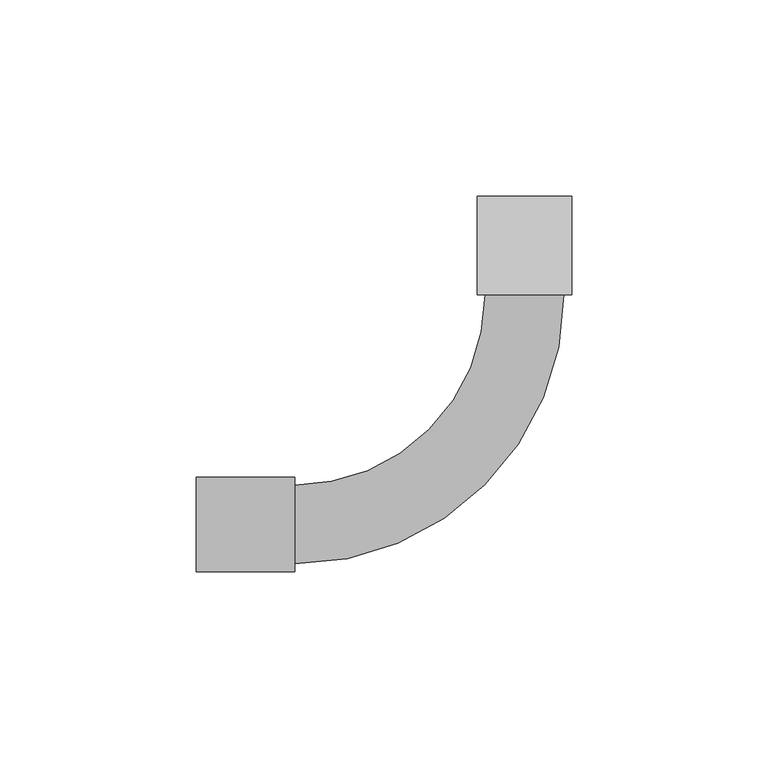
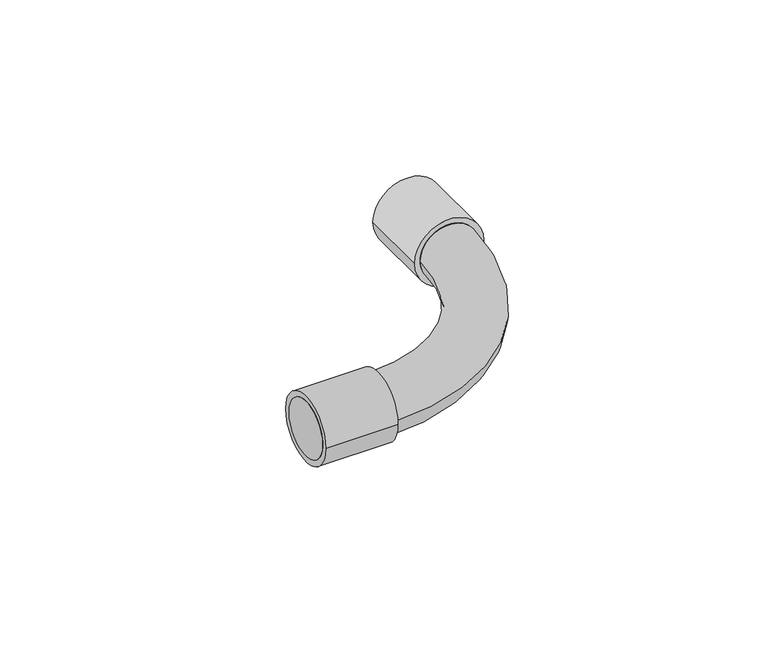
"""IFC4 building model written with IfcOpenShell, lengths in millimetres: cable carrier fitting geometry, Поворот на 90 труба-труба CRSG : Поворот на 90 труба-труба CRSG."""

from ifc_helpers import new_model, si_unit, point, frame, origin, origin_2d, place, context, project, spatial, circle_curve, ellipse_curve, trimmed, segment, composite_curve, outline, extrude, source, transform, mapped, element, save
from ifc_brep_helpers import plane_surface, cylinder_surface, revolved_surface, advanced_brep


def cable_carrier_fitting_3a765418(model_context):
    return source(origin(), model_context, "Body", "SolidModel", [
        advanced_brep(
        [(-83.4898, -9.9949, 0.0), (-83.4898, 9.9949, 0.0), (-58.4962, -9.9949, 0.0), (-58.4962, 9.9949, 0.0), (-9.9949, 58.4962, 0.0), (9.9949, 58.4962, 0.0), (9.9949, 83.4898, 0.0), (-9.9949, 83.4898, 0.0)],
        [
            (0, 1, circle_curve(frame((-83.4898, 0.0, 0.0), z_axis=(-1.0, 0.0, 0.0), x_axis=(0.0, 1.0, 0.0)), 9.9949)),
            (1, 0, circle_curve(frame((-83.4898, 0.0, 0.0), z_axis=(-1.0, 0.0, 0.0), x_axis=(0.0, 1.0, 0.0)), 9.9949)),
            (0, 2),
            (2, 3, circle_curve(frame((-58.4962, 0.0, 0.0), z_axis=(-1.0, 0.0, 0.0), x_axis=(0.0, 1.0, 0.0)), 9.9949)),
            (3, 1),
            (3, 2, circle_curve(frame((-58.4962, 0.0, 0.0), z_axis=(-1.0, 0.0, 0.0), x_axis=(0.0, 1.0, 0.0)), 9.9949)),
            (4, 3, circle_curve(frame((-58.4962, 58.4962, 0.0), z_axis=(0.0, 0.0, -1.0), x_axis=(0.0, -1.0, 0.0)), 48.5013)),
            (2, 5, circle_curve(frame((-58.4962, 58.4962, 0.0), z_axis=(0.0, 0.0, 1.0), x_axis=(0.0, -1.0, 0.0)), 68.4911)),
            (5, 4, circle_curve(frame((0.0, 58.4962, 0.0), z_axis=(0.0, -1.0, 0.0), x_axis=(-1.0, 0.0, 0.0)), 9.9949)),
            (4, 5, circle_curve(frame((0.0, 58.4962, 0.0), z_axis=(0.0, -1.0, 0.0), x_axis=(-1.0, 0.0, 0.0)), 9.9949)),
            (6, 7, circle_curve(frame((0.0, 83.4898, 0.0), z_axis=(0.0, 1.0, 0.0), x_axis=(-1.0, 0.0, 0.0)), 9.9949)),
            (7, 6, circle_curve(frame((0.0, 83.4898, 0.0), z_axis=(0.0, 1.0, 0.0), x_axis=(-1.0, 0.0, 0.0)), 9.9949)),
            (5, 6),
            (7, 4),
        ],
        [
            plane_surface(frame((-83.4898, 0.0, 0.0), z_axis=(-1.0, 0.0, 0.0), x_axis=(0.0, 0.0, 1.0))),
            cylinder_surface(frame((-83.4898, 0.0, 0.0), z_axis=(-1.0, 0.0, 0.0), x_axis=(0.0, 1.0, 0.0)), 9.9949),
            revolved_surface(trimmed(ellipse_curve(frame((-58.4962, 0.0, 0.0), z_axis=(-1.0, 0.0, 0.0), x_axis=(0.0, 1.0, 0.0)), 9.9949, 9.9949), [point((-58.4962, -9.9949, 0.0))], [point((-58.4962, 9.9949, 0.0))], True, "CARTESIAN"), (-58.4962, 58.4962, 0.0), (0.0, 0.0, 1.0)),
            revolved_surface(trimmed(ellipse_curve(frame((-58.4962, 0.0, 0.0), z_axis=(-1.0, 0.0, 0.0), x_axis=(0.0, 1.0, 0.0)), 9.9949, 9.9949), [point((-58.4962, 9.9949, 0.0))], [point((-58.4962, -9.9949, 0.0))], True, "CARTESIAN"), (-58.4962, 58.4962, 0.0), (0.0, 0.0, 1.0)),
            plane_surface(frame((0.0, 83.4898, 0.0), z_axis=(0.0, 1.0, 0.0), x_axis=(0.0, 0.0, 1.0))),
            cylinder_surface(frame((0.0, 58.4962, 0.0), z_axis=(0.0, -1.0, 0.0), x_axis=(-1.0, 0.0, 0.0)), 9.9949),
        ],
        [
            (0, [[1, 2]]),
            (1, [[-1, 3, 4, 5]]),
            (1, [[-2, -5, 6, -3]]),
            (2, [[7, -4, 8, 9]]),
            (3, [[-8, -6, -7, 10]]),
            (4, [[11, 12]]),
            (5, [[-9, 13, -12, 14]]),
            (5, [[-10, -14, -11, -13]]),
        ],
    ),
        extrude(outline(composite_curve([segment(trimmed(circle_curve(origin_2d(), 12.0), [point((-12.0, 0.0))], [point((12.0, 0.0))], False, "CARTESIAN"), True, "CONTINUOUS"), segment(trimmed(circle_curve(origin_2d(), 12.0), [point((12.0, 0.0))], [point((-12.0, 0.0))], False, "CARTESIAN"), True, "CONTINUOUS")], self_intersect=False)), frame((-83.4898, 0.0, 0.0), z_axis=(1.0, 0.0, 0.0), x_axis=(0.0, 1.0, 0.0)), (0.0, 0.0, 1.0), 24.9936),
        extrude(outline(composite_curve([segment(trimmed(circle_curve(origin_2d(), 12.0), [point((0.0, 12.0))], [point((0.0, -12.0))], False, "CARTESIAN"), True, "CONTINUOUS"), segment(trimmed(circle_curve(origin_2d(), 12.0), [point((0.0, -12.0))], [point((0.0, 12.0))], False, "CARTESIAN"), True, "CONTINUOUS")], self_intersect=False)), frame((0.0, 58.4962, 0.0), z_axis=(0.0, 1.0, 0.0), x_axis=(0.0, 0.0, 1.0)), (0.0, 0.0, 1.0), 24.9936),
    ])


if __name__ == "__main__":
    model = new_model("IFC4")
    model_context = context("Model", 3, world=origin())
    ifc_project = project(units=[si_unit("LENGTHUNIT", "METRE", prefix="MILLI")], contexts=[model_context])
    site = spatial("IfcSite", under=ifc_project)
    building = spatial("IfcBuilding", under=site)
    placement = place(None, origin())
    cable_carrier_fitting_shape = cable_carrier_fitting_3a765418(model_context)
    element("IfcCableCarrierFitting", 1, ObjectType="Поворот на 90 труба-труба CRSG : Поворот на 90 труба-труба CRSG", at=placement, inside=building, context=model_context, shape_type="MappedRepresentation", body=[
        mapped(cable_carrier_fitting_shape, transform((0.0, 0.0, 0.0), x_axis=(1.0, 0.0, 0.0), y_axis=(0.0, 1.0, 0.0), z_axis=(0.0, 0.0, 1.0))),
    ])
    save(model, "model.ifc")
